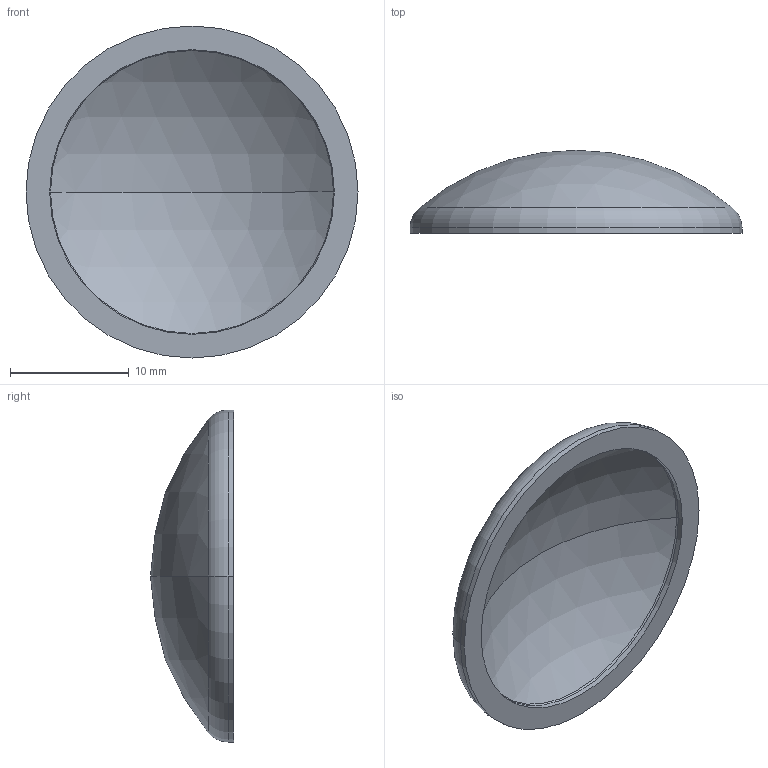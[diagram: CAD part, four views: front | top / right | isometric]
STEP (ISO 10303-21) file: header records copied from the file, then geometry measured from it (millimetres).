
FILE_DESCRIPTION (( 'STEP AP203' ), '1' );
FILE_NAME ('3D_R365_28x2_173373180.STEP', '2024-07-16T07:02:56', ( '' ), ( '' ), 'SwSTEP 2.0', 'SolidWorks 2024', '' );
FILE_SCHEMA (( 'CONFIG_CONTROL_DESIGN' ));
Length unit declared in the file: millimetre
Products named in the file (1): 3D_R365_28x2_173373180
Bounding box: 28 x 7 x 28 mm (x, y, z)
Volume: 1375.2 mm3; surface area: 1547 mm2
Topology: 1 solids, 1 shells, 13 faces, 24 edges, 14 vertices
Faces by surface type: sphere 4, torus 4, cylinder 4, plane 1
Entity records: 407 total; most frequent: DIRECTION 72, CARTESIAN_POINT 52, ORIENTED_EDGE 48, AXIS2_PLACEMENT_3D 34, EDGE_CURVE 24, CIRCLE 20, VERTEX_POINT 14, EDGE_LOOP 14
